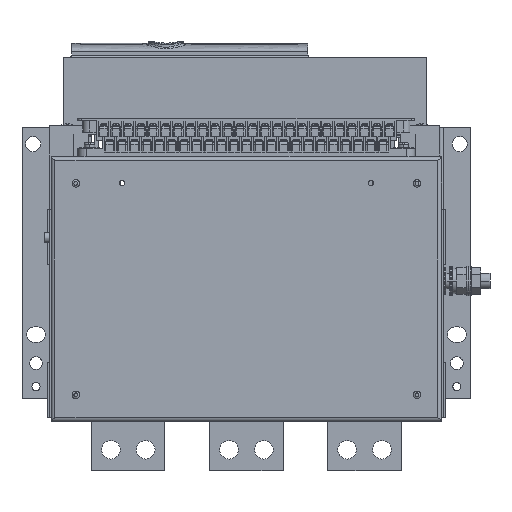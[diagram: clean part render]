
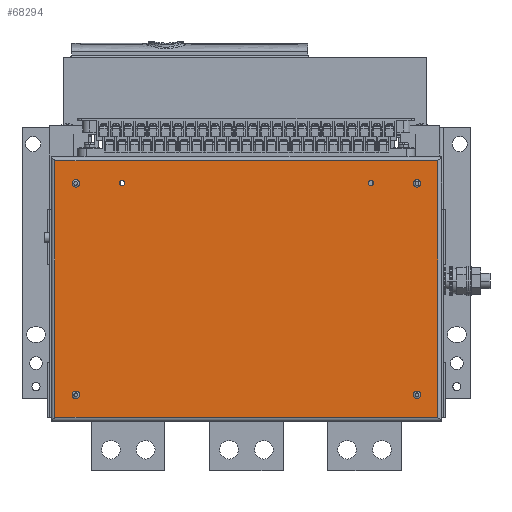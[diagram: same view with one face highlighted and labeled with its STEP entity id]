
A CAD part, left-side view. The second image highlights one B-rep face of the part: STEP entity #68294.
In plain terms, the highlighted planar face has unit normal (-1, 0, 0).
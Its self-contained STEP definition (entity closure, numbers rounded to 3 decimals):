
#66269=CARTESIAN_POINT('',(-30.242,1.186,-271.25));
#66270=DIRECTION('',(-1.,0.,0.));
#66271=DIRECTION('',(0.,0.,-1.));
#66272=AXIS2_PLACEMENT_3D('',#66269,#66270,#66271);
#66274=CARTESIAN_POINT('',(-30.242,1.186,-271.25));
#66275=DIRECTION('',(-1.,0.,0.));
#66276=DIRECTION('',(0.,-1.,0.));
#66277=AXIS2_PLACEMENT_3D('',#66274,#66275,#66276);
#66279=CARTESIAN_POINT('',(-30.242,1.186,-271.25));
#66280=DIRECTION('',(-1.,0.,0.));
#66281=DIRECTION('',(0.,0.,1.));
#66282=AXIS2_PLACEMENT_3D('',#66279,#66280,#66281);
#66284=CARTESIAN_POINT('',(-30.242,1.186,-271.25));
#66285=DIRECTION('',(-1.,0.,0.));
#66286=DIRECTION('',(0.,1.,0.));
#66287=AXIS2_PLACEMENT_3D('',#66284,#66285,#66286);
#66289=CARTESIAN_POINT('',(-30.242,-36.064,-101.1));
#66290=DIRECTION('',(-1.,0.,0.));
#66291=DIRECTION('',(0.,0.,1.));
#66292=AXIS2_PLACEMENT_3D('',#66289,#66290,#66291);
#66294=CARTESIAN_POINT('',(-30.242,-36.064,-101.1));
#66295=DIRECTION('',(-1.,0.,0.));
#66296=DIRECTION('',(0.,0.,-1.));
#66297=AXIS2_PLACEMENT_3D('',#66294,#66295,#66296);
#66299=CARTESIAN_POINT('',(-30.242,1.186,-101.25));
#66300=DIRECTION('',(-1.,0.,0.));
#66301=DIRECTION('',(0.,0.,-1.));
#66302=AXIS2_PLACEMENT_3D('',#66299,#66300,#66301);
#66304=CARTESIAN_POINT('',(-30.242,1.186,-101.25));
#66305=DIRECTION('',(-1.,0.,0.));
#66306=DIRECTION('',(0.,-1.,0.));
#66307=AXIS2_PLACEMENT_3D('',#66304,#66305,#66306);
#66309=CARTESIAN_POINT('',(-30.242,1.186,-101.25));
#66310=DIRECTION('',(-1.,0.,0.));
#66311=DIRECTION('',(0.,0.,1.));
#66312=AXIS2_PLACEMENT_3D('',#66309,#66310,#66311);
#66314=CARTESIAN_POINT('',(-30.242,-236.064,-101.1));
#66315=DIRECTION('',(-1.,0.,0.));
#66316=DIRECTION('',(0.,0.,1.));
#66317=AXIS2_PLACEMENT_3D('',#66314,#66315,#66316);
#66319=CARTESIAN_POINT('',(-30.242,-236.064,-101.1));
#66320=DIRECTION('',(-1.,0.,0.));
#66321=DIRECTION('',(0.,0.,-1.));
#66322=AXIS2_PLACEMENT_3D('',#66319,#66320,#66321);
#66324=CARTESIAN_POINT('',(-30.242,-273.314,-101.25));
#66325=DIRECTION('',(-1.,0.,0.));
#66326=DIRECTION('',(0.,0.,1.));
#66327=AXIS2_PLACEMENT_3D('',#66324,#66325,#66326);
#66329=CARTESIAN_POINT('',(-30.242,-273.314,-101.25));
#66330=DIRECTION('',(-1.,0.,0.));
#66331=DIRECTION('',(0.,1.,0.));
#66332=AXIS2_PLACEMENT_3D('',#66329,#66330,#66331);
#66334=CARTESIAN_POINT('',(-30.242,-273.314,-101.25));
#66335=DIRECTION('',(-1.,0.,0.));
#66336=DIRECTION('',(0.,0.,-1.));
#66337=AXIS2_PLACEMENT_3D('',#66334,#66335,#66336);
#66339=CARTESIAN_POINT('',(-30.242,-273.314,-101.25));
#66340=DIRECTION('',(-1.,0.,0.));
#66341=DIRECTION('',(0.,-1.,0.));
#66342=AXIS2_PLACEMENT_3D('',#66339,#66340,#66341);
#66344=CARTESIAN_POINT('',(-30.242,-273.314,-271.25));
#66345=DIRECTION('',(-1.,0.,0.));
#66346=DIRECTION('',(0.,0.,1.));
#66347=AXIS2_PLACEMENT_3D('',#66344,#66345,#66346);
#66349=CARTESIAN_POINT('',(-30.242,-273.314,-271.25));
#66350=DIRECTION('',(-1.,0.,0.));
#66351=DIRECTION('',(0.,1.,0.));
#66352=AXIS2_PLACEMENT_3D('',#66349,#66350,#66351);
#66354=CARTESIAN_POINT('',(-30.242,-273.314,-271.25));
#66355=DIRECTION('',(-1.,0.,0.));
#66356=DIRECTION('',(0.,0.,-1.));
#66357=AXIS2_PLACEMENT_3D('',#66354,#66355,#66356);
#66377=DIRECTION('',(0.,-1.,0.));
#66378=VECTOR('',#66377,308.);
#66379=CARTESIAN_POINT('',(-30.242,17.936,-289.5));
#66380=LINE('',#66379,#66378);
#67283=DIRECTION('',(0.,0.,-1.));
#67284=VECTOR('',#67283,206.5);
#67285=CARTESIAN_POINT('',(-30.242,17.936,-83.));
#67286=LINE('',#67285,#67284);
#67301=DIRECTION('',(0.,1.,0.));
#67302=VECTOR('',#67301,308.);
#67303=CARTESIAN_POINT('',(-30.242,-290.064,-83.));
#67304=LINE('',#67303,#67302);
#67323=DIRECTION('',(0.,0.,1.));
#67324=VECTOR('',#67323,206.5);
#67325=CARTESIAN_POINT('',(-30.242,-290.064,-289.5));
#67326=LINE('',#67325,#67324);
#67763=CARTESIAN_POINT('',(-30.242,17.936,-289.5));
#67764=CARTESIAN_POINT('',(-30.242,-290.064,-289.5));
#67765=VERTEX_POINT('',#67763);
#67766=VERTEX_POINT('',#67764);
#67767=CARTESIAN_POINT('',(-30.242,17.936,-83.));
#67768=VERTEX_POINT('',#67767);
#67769=CARTESIAN_POINT('',(-30.242,-290.064,-83.));
#67770=VERTEX_POINT('',#67769);
#67771=CARTESIAN_POINT('',(-30.242,1.186,-274.25));
#67772=CARTESIAN_POINT('',(-30.242,-1.814,-271.25));
#67773=VERTEX_POINT('',#67771);
#67774=VERTEX_POINT('',#67772);
#67775=CARTESIAN_POINT('',(-30.242,1.186,-268.25));
#67776=VERTEX_POINT('',#67775);
#67777=CARTESIAN_POINT('',(-30.242,4.186,-271.25));
#67778=VERTEX_POINT('',#67777);
#67779=CARTESIAN_POINT('',(-30.242,-36.064,-98.9));
#67780=CARTESIAN_POINT('',(-30.242,-36.064,-103.3));
#67781=VERTEX_POINT('',#67779);
#67782=VERTEX_POINT('',#67780);
#67783=CARTESIAN_POINT('',(-30.242,1.186,-104.25));
#67784=CARTESIAN_POINT('',(-30.242,-1.814,-101.25));
#67785=VERTEX_POINT('',#67783);
#67786=VERTEX_POINT('',#67784);
#67787=CARTESIAN_POINT('',(-30.242,1.186,-98.25));
#67788=VERTEX_POINT('',#67787);
#67789=CARTESIAN_POINT('',(-30.242,-236.064,-98.9));
#67790=CARTESIAN_POINT('',(-30.242,-236.064,-103.3));
#67791=VERTEX_POINT('',#67789);
#67792=VERTEX_POINT('',#67790);
#67793=CARTESIAN_POINT('',(-30.242,-273.314,-98.25));
#67794=CARTESIAN_POINT('',(-30.242,-270.314,-101.25));
#67795=VERTEX_POINT('',#67793);
#67796=VERTEX_POINT('',#67794);
#67797=CARTESIAN_POINT('',(-30.242,-273.314,-104.25));
#67798=VERTEX_POINT('',#67797);
#67799=CARTESIAN_POINT('',(-30.242,-276.314,-101.25));
#67800=VERTEX_POINT('',#67799);
#67801=CARTESIAN_POINT('',(-30.242,-273.314,-268.25));
#67802=CARTESIAN_POINT('',(-30.242,-270.314,-271.25));
#67803=VERTEX_POINT('',#67801);
#67804=VERTEX_POINT('',#67802);
#67805=CARTESIAN_POINT('',(-30.242,-273.314,-274.25));
#67806=VERTEX_POINT('',#67805);
#68231=CARTESIAN_POINT('',(-30.242,-282.064,-200.));
#68232=DIRECTION('',(1.,0.,0.));
#68233=DIRECTION('',(0.,0.,-1.));
#68234=AXIS2_PLACEMENT_3D('',#68231,#68232,#68233);
#68235=PLANE('',#68234);
#68237=ORIENTED_EDGE('',*,*,#68236,.F.);
#68239=ORIENTED_EDGE('',*,*,#68238,.F.);
#68241=ORIENTED_EDGE('',*,*,#68240,.F.);
#68243=ORIENTED_EDGE('',*,*,#68242,.F.);
#68244=EDGE_LOOP('',(#68237,#68239,#68241,#68243));
#68245=FACE_OUTER_BOUND('',#68244,.F.);
#68247=ORIENTED_EDGE('',*,*,#68246,.T.);
#68249=ORIENTED_EDGE('',*,*,#68248,.T.);
#68251=ORIENTED_EDGE('',*,*,#68250,.T.);
#68253=ORIENTED_EDGE('',*,*,#68252,.T.);
#68254=EDGE_LOOP('',(#68247,#68249,#68251,#68253));
#68255=FACE_BOUND('',#68254,.F.);
#68257=ORIENTED_EDGE('',*,*,#68256,.T.);
#68259=ORIENTED_EDGE('',*,*,#68258,.T.);
#68260=EDGE_LOOP('',(#68257,#68259));
#68261=FACE_BOUND('',#68260,.F.);
#68263=ORIENTED_EDGE('',*,*,#68262,.T.);
#68265=ORIENTED_EDGE('',*,*,#68264,.T.);
#68267=ORIENTED_EDGE('',*,*,#68266,.T.);
#68268=EDGE_LOOP('',(#68263,#68265,#68267));
#68269=FACE_BOUND('',#68268,.F.);
#68271=ORIENTED_EDGE('',*,*,#68270,.T.);
#68273=ORIENTED_EDGE('',*,*,#68272,.T.);
#68274=EDGE_LOOP('',(#68271,#68273));
#68275=FACE_BOUND('',#68274,.F.);
#68277=ORIENTED_EDGE('',*,*,#68276,.T.);
#68279=ORIENTED_EDGE('',*,*,#68278,.T.);
#68281=ORIENTED_EDGE('',*,*,#68280,.T.);
#68283=ORIENTED_EDGE('',*,*,#68282,.T.);
#68284=EDGE_LOOP('',(#68277,#68279,#68281,#68283));
#68285=FACE_BOUND('',#68284,.F.);
#68287=ORIENTED_EDGE('',*,*,#68286,.T.);
#68289=ORIENTED_EDGE('',*,*,#68288,.T.);
#68291=ORIENTED_EDGE('',*,*,#68290,.T.);
#68292=EDGE_LOOP('',(#68287,#68289,#68291));
#68293=FACE_BOUND('',#68292,.F.);
#68294=ADVANCED_FACE('',(#68245,#68255,#68261,#68269,#68275,#68285,#68293),
#68235,.F.);
#66273=CIRCLE('',#66272,3.);
#66278=CIRCLE('',#66277,3.);
#66283=CIRCLE('',#66282,3.);
#66288=CIRCLE('',#66287,3.);
#66293=CIRCLE('',#66292,2.2);
#66298=CIRCLE('',#66297,2.2);
#66303=CIRCLE('',#66302,3.);
#66308=CIRCLE('',#66307,3.);
#66313=CIRCLE('',#66312,3.);
#66318=CIRCLE('',#66317,2.2);
#66323=CIRCLE('',#66322,2.2);
#66328=CIRCLE('',#66327,3.);
#66333=CIRCLE('',#66332,3.);
#66338=CIRCLE('',#66337,3.);
#66343=CIRCLE('',#66342,3.);
#66348=CIRCLE('',#66347,3.);
#66353=CIRCLE('',#66352,3.);
#66358=CIRCLE('',#66357,3.);
#68236=EDGE_CURVE('',#67765,#67766,#66380,.T.);
#68238=EDGE_CURVE('',#67768,#67765,#67286,.T.);
#68240=EDGE_CURVE('',#67770,#67768,#67304,.T.);
#68242=EDGE_CURVE('',#67766,#67770,#67326,.T.);
#68246=EDGE_CURVE('',#67773,#67774,#66273,.T.);
#68248=EDGE_CURVE('',#67774,#67776,#66278,.T.);
#68250=EDGE_CURVE('',#67776,#67778,#66283,.T.);
#68252=EDGE_CURVE('',#67778,#67773,#66288,.T.);
#68256=EDGE_CURVE('',#67781,#67782,#66293,.T.);
#68258=EDGE_CURVE('',#67782,#67781,#66298,.T.);
#68262=EDGE_CURVE('',#67785,#67786,#66303,.T.);
#68264=EDGE_CURVE('',#67786,#67788,#66308,.T.);
#68266=EDGE_CURVE('',#67788,#67785,#66313,.T.);
#68270=EDGE_CURVE('',#67791,#67792,#66318,.T.);
#68272=EDGE_CURVE('',#67792,#67791,#66323,.T.);
#68276=EDGE_CURVE('',#67795,#67796,#66328,.T.);
#68278=EDGE_CURVE('',#67796,#67798,#66333,.T.);
#68280=EDGE_CURVE('',#67798,#67800,#66338,.T.);
#68282=EDGE_CURVE('',#67800,#67795,#66343,.T.);
#68286=EDGE_CURVE('',#67803,#67804,#66348,.T.);
#68288=EDGE_CURVE('',#67804,#67806,#66353,.T.);
#68290=EDGE_CURVE('',#67806,#67803,#66358,.T.);
